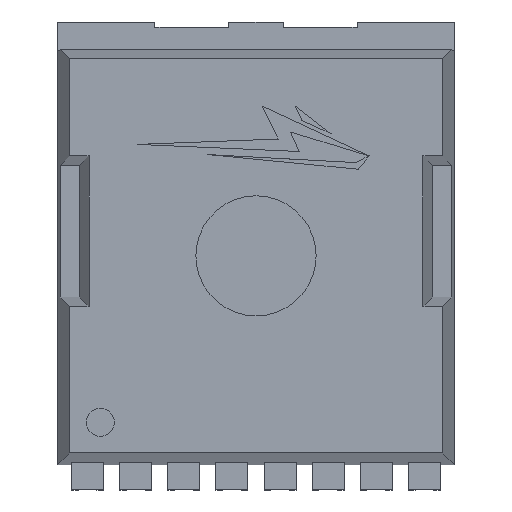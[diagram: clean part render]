
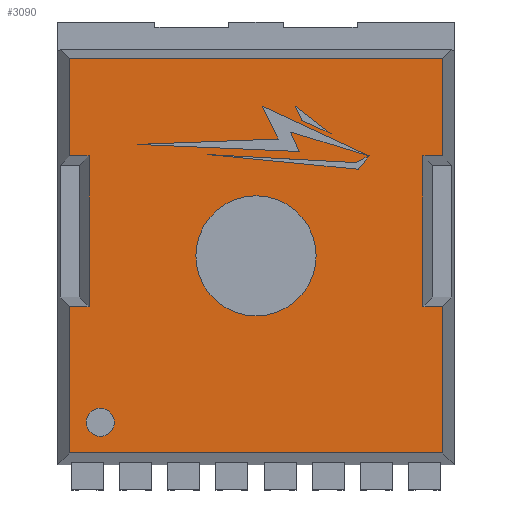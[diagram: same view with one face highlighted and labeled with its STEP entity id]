
A CAD part, top view. The second image highlights one B-rep face of the part: STEP entity #3090.
In plain terms, the highlighted planar face has unit normal (0, 0, 1).
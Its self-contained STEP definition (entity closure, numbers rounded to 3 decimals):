
#47=FACE_BOUND('',#272,.T.);
#48=CIRCLE('',#3355,1.5);
#49=CIRCLE('',#3356,1.5);
#106=FACE_OUTER_BOUND('',#271,.T.);
#271=EDGE_LOOP('',(#2239,#2240,#2241,#2242,#2243,#2244,#2245,#2246,#2247,
#2248,#2249,#2250));
#272=EDGE_LOOP('',(#2251,#2252));
#497=LINE('',#4508,#931);
#501=LINE('',#4516,#935);
#505=LINE('',#4523,#939);
#508=LINE('',#4530,#942);
#512=LINE('',#4537,#946);
#525=LINE('',#4569,#959);
#526=LINE('',#4572,#960);
#529=LINE('',#4577,#963);
#531=LINE('',#4582,#965);
#532=LINE('',#4584,#966);
#533=LINE('',#4585,#967);
#534=LINE('',#4586,#968);
#931=VECTOR('',#3670,10.);
#935=VECTOR('',#3674,10.);
#939=VECTOR('',#3680,10.);
#942=VECTOR('',#3685,10.);
#946=VECTOR('',#3689,10.);
#959=VECTOR('',#3728,10.);
#960=VECTOR('',#3731,10.);
#963=VECTOR('',#3736,10.);
#965=VECTOR('',#3742,10.);
#966=VECTOR('',#3743,10.);
#967=VECTOR('',#3744,10.);
#968=VECTOR('',#3745,10.);
#1335=VERTEX_POINT('',#4505);
#1336=VERTEX_POINT('',#4507);
#1339=VERTEX_POINT('',#4513);
#1340=VERTEX_POINT('',#4515);
#1342=VERTEX_POINT('',#4521);
#1344=VERTEX_POINT('',#4527);
#1345=VERTEX_POINT('',#4529);
#1348=VERTEX_POINT('',#4535);
#1349=VERTEX_POINT('',#4554);
#1350=VERTEX_POINT('',#4555);
#1354=VERTEX_POINT('',#4567);
#1355=VERTEX_POINT('',#4571);
#1357=VERTEX_POINT('',#4581);
#1358=VERTEX_POINT('',#4583);
#1661=EDGE_CURVE('',#1335,#1336,#497,.T.);
#1665=EDGE_CURVE('',#1339,#1340,#501,.T.);
#1669=EDGE_CURVE('',#1342,#1335,#505,.T.);
#1672=EDGE_CURVE('',#1344,#1345,#508,.T.);
#1676=EDGE_CURVE('',#1348,#1342,#512,.T.);
#1686=EDGE_CURVE('',#1349,#1350,#48,.T.);
#1687=EDGE_CURVE('',#1350,#1349,#49,.T.);
#1693=EDGE_CURVE('',#1339,#1354,#525,.T.);
#1694=EDGE_CURVE('',#1354,#1355,#526,.T.);
#1697=EDGE_CURVE('',#1355,#1336,#529,.T.);
#1699=EDGE_CURVE('',#1348,#1357,#531,.T.);
#1700=EDGE_CURVE('',#1357,#1358,#532,.T.);
#1701=EDGE_CURVE('',#1358,#1345,#533,.T.);
#1702=EDGE_CURVE('',#1340,#1344,#534,.T.);
#2239=ORIENTED_EDGE('',*,*,#1693,.T.);
#2240=ORIENTED_EDGE('',*,*,#1694,.T.);
#2241=ORIENTED_EDGE('',*,*,#1697,.T.);
#2242=ORIENTED_EDGE('',*,*,#1661,.F.);
#2243=ORIENTED_EDGE('',*,*,#1669,.F.);
#2244=ORIENTED_EDGE('',*,*,#1676,.F.);
#2245=ORIENTED_EDGE('',*,*,#1699,.T.);
#2246=ORIENTED_EDGE('',*,*,#1700,.T.);
#2247=ORIENTED_EDGE('',*,*,#1701,.T.);
#2248=ORIENTED_EDGE('',*,*,#1672,.F.);
#2249=ORIENTED_EDGE('',*,*,#1702,.F.);
#2250=ORIENTED_EDGE('',*,*,#1665,.F.);
#2251=ORIENTED_EDGE('',*,*,#1686,.T.);
#2252=ORIENTED_EDGE('',*,*,#1687,.T.);
#2926=PLANE('',#3364);
#3090=ADVANCED_FACE('',(#106,#47),#2926,.T.);
#3355=AXIS2_PLACEMENT_3D('',#4556,#3713,#3714);
#3356=AXIS2_PLACEMENT_3D('',#4557,#3715,#3716);
#3364=AXIS2_PLACEMENT_3D('',#4580,#3740,#3741);
#3670=DIRECTION('',(0.,-1.,0.));
#3674=DIRECTION('',(0.,-1.,0.));
#3680=DIRECTION('',(1.,0.,0.));
#3685=DIRECTION('',(0.,1.,0.));
#3689=DIRECTION('',(0.,1.,0.));
#3713=DIRECTION('center_axis',(0.,0.,-1.));
#3714=DIRECTION('ref_axis',(1.,0.,0.));
#3715=DIRECTION('center_axis',(0.,0.,-1.));
#3716=DIRECTION('ref_axis',(1.,0.,0.));
#3728=DIRECTION('',(-1.,0.,0.));
#3731=DIRECTION('',(0.,1.,0.));
#3736=DIRECTION('',(1.,0.,0.));
#3740=DIRECTION('center_axis',(0.,0.,1.));
#3741=DIRECTION('ref_axis',(1.,0.,0.));
#3742=DIRECTION('',(1.,0.,0.));
#3743=DIRECTION('',(0.,-1.,0.));
#3744=DIRECTION('',(-1.,0.,0.));
#3745=DIRECTION('',(-1.,0.,0.));
#4505=CARTESIAN_POINT('',(4.655,4.92,2.4));
#4507=CARTESIAN_POINT('',(4.655,2.498,2.4));
#4508=CARTESIAN_POINT('',(4.655,-5.215,2.4));
#4513=CARTESIAN_POINT('',(4.655,-1.268,2.4));
#4515=CARTESIAN_POINT('',(4.655,-4.92,2.4));
#4516=CARTESIAN_POINT('',(4.655,-5.215,2.4));
#4521=CARTESIAN_POINT('',(-4.655,4.92,2.4));
#4523=CARTESIAN_POINT('',(4.95,4.92,2.4));
#4527=CARTESIAN_POINT('',(-4.655,-4.92,2.4));
#4529=CARTESIAN_POINT('',(-4.655,-1.268,2.4));
#4530=CARTESIAN_POINT('',(-4.655,5.215,2.4));
#4535=CARTESIAN_POINT('',(-4.655,2.498,2.4));
#4537=CARTESIAN_POINT('',(-4.655,5.215,2.4));
#4554=CARTESIAN_POINT('',(1.5,0.,2.4));
#4555=CARTESIAN_POINT('',(-1.5,0.,2.4));
#4556=CARTESIAN_POINT('Origin',(0.,0.,2.4));
#4557=CARTESIAN_POINT('Origin',(0.,0.,2.4));
#4567=CARTESIAN_POINT('',(4.167,-1.268,2.4));
#4569=CARTESIAN_POINT('',(2.2,-1.268,2.4));
#4571=CARTESIAN_POINT('',(4.167,2.498,2.4));
#4572=CARTESIAN_POINT('',(4.167,1.133,2.4));
#4577=CARTESIAN_POINT('',(2.475,2.498,2.4));
#4580=CARTESIAN_POINT('Origin',(0.,0.,2.4));
#4581=CARTESIAN_POINT('',(-4.167,2.498,2.4));
#4582=CARTESIAN_POINT('',(-2.475,2.498,2.4));
#4583=CARTESIAN_POINT('',(-4.167,-1.268,2.4));
#4584=CARTESIAN_POINT('',(-4.167,1.133,2.4));
#4585=CARTESIAN_POINT('',(-2.2,-1.268,2.4));
#4586=CARTESIAN_POINT('',(-4.95,-4.92,2.4));
